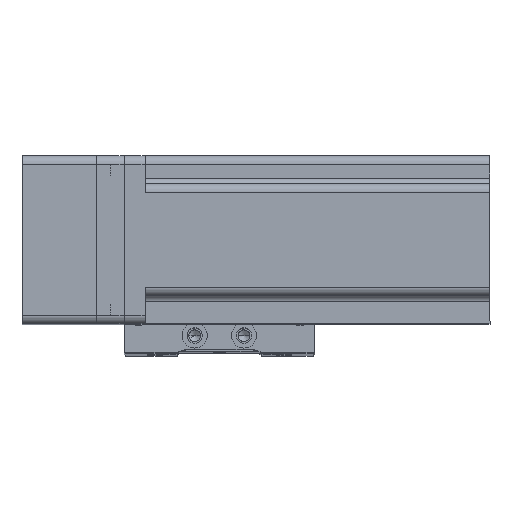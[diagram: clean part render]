
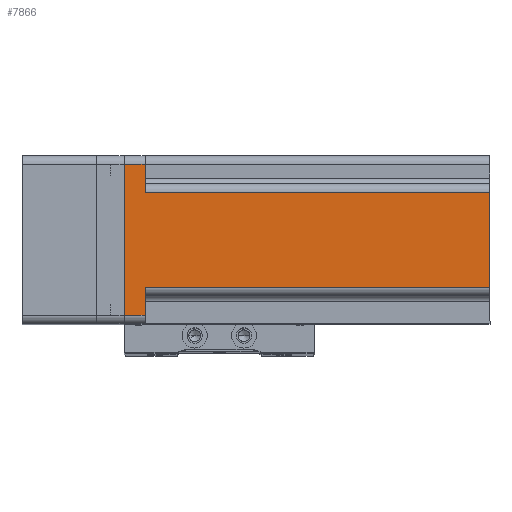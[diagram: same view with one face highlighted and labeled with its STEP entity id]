
A CAD part, top view. The second image highlights one B-rep face of the part: STEP entity #7866.
In plain terms, the highlighted planar face has unit normal (0, 0, 1) as drawn and (0, 1, 0) by its records, which use the part's own axes.
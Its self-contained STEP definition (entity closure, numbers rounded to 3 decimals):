
#216 = VECTOR ( 'NONE', #43646, 1000. ) ;
#3363 = EDGE_LOOP ( 'NONE', ( #10112, #43690, #41309, #33197, #5117, #15691, #41133, #37430 ) ) ;
#4179 = EDGE_CURVE ( 'NONE', #12822, #38806, #40154, .T. ) ;
#5117 = ORIENTED_EDGE ( 'NONE', *, *, #21757, .F. ) ;
#7206 = EDGE_CURVE ( 'NONE', #43794, #40112, #16280, .T. ) ;
#7227 = VERTEX_POINT ( 'NONE', #16454 ) ;
#7866 = ADVANCED_FACE ( 'NONE', ( #32138 ), #19672, .F. ) ;
#7918 = AXIS2_PLACEMENT_3D ( 'NONE', #33338, #12984, #36745 ) ;
#7974 = CARTESIAN_POINT ( 'NONE',  ( 20., 30., 7.5 ) ) ;
#8265 = CARTESIAN_POINT ( 'NONE',  ( -27., 30., 0. ) ) ;
#9008 = EDGE_CURVE ( 'NONE', #20788, #12822, #11090, .T. ) ;
#10112 = ORIENTED_EDGE ( 'NONE', *, *, #28943, .T. ) ;
#10919 = CARTESIAN_POINT ( 'NONE',  ( 17., 30., 7.5 ) ) ;
#11090 = LINE ( 'NONE', #21944, #28108 ) ;
#11184 = CARTESIAN_POINT ( 'NONE',  ( 27., 30., 0. ) ) ;
#12114 = EDGE_CURVE ( 'NONE', #43794, #25513, #34223, .T. ) ;
#12822 = VERTEX_POINT ( 'NONE', #8265 ) ;
#12909 = CARTESIAN_POINT ( 'NONE',  ( -17., 30., 130.7 ) ) ;
#12984 = DIRECTION ( 'NONE',  ( 0., -1., 0. ) ) ;
#13384 = VECTOR ( 'NONE', #38646, 1000. ) ;
#13715 = DIRECTION ( 'NONE',  ( 0., 0., 1. ) ) ;
#14037 = VECTOR ( 'NONE', #13715, 1000. ) ;
#15691 = ORIENTED_EDGE ( 'NONE', *, *, #26858, .T. ) ;
#16280 = LINE ( 'NONE', #43400, #33291 ) ;
#16454 = CARTESIAN_POINT ( 'NONE',  ( -17., 30., 7.5 ) ) ;
#18123 = LINE ( 'NONE', #40214, #216 ) ;
#19542 = LINE ( 'NONE', #7974, #28582 ) ;
#19672 = PLANE ( 'NONE',  #7918 ) ;
#20788 = VERTEX_POINT ( 'NONE', #11184 ) ;
#20941 = CARTESIAN_POINT ( 'NONE',  ( 30., 30., 130.7 ) ) ;
#21757 = EDGE_CURVE ( 'NONE', #22154, #40112, #19542, .T. ) ;
#21944 = CARTESIAN_POINT ( 'NONE',  ( 30., 30., 0. ) ) ;
#22154 = VERTEX_POINT ( 'NONE', #41354 ) ;
#25291 = VECTOR ( 'NONE', #34579, 1000. ) ;
#25513 = VERTEX_POINT ( 'NONE', #12909 ) ;
#26486 = DIRECTION ( 'NONE',  ( 0., 0., -1. ) ) ;
#26858 = EDGE_CURVE ( 'NONE', #22154, #20788, #43109, .T. ) ;
#28108 = VECTOR ( 'NONE', #38992, 1000. ) ;
#28582 = VECTOR ( 'NONE', #35094, 1000. ) ;
#28943 = EDGE_CURVE ( 'NONE', #38806, #7227, #18123, .T. ) ;
#32138 = FACE_OUTER_BOUND ( 'NONE', #3363, .T. ) ;
#33197 = ORIENTED_EDGE ( 'NONE', *, *, #7206, .T. ) ;
#33291 = VECTOR ( 'NONE', #26486, 1000. ) ;
#33338 = CARTESIAN_POINT ( 'NONE',  ( 30., 30., 130.7 ) ) ;
#33964 = CARTESIAN_POINT ( 'NONE',  ( 27., 30., 130.7 ) ) ;
#33999 = VECTOR ( 'NONE', #37382, 1000. ) ;
#34223 = LINE ( 'NONE', #20941, #25291 ) ;
#34342 = CARTESIAN_POINT ( 'NONE',  ( -27., 30., 7.5 ) ) ;
#34579 = DIRECTION ( 'NONE',  ( -1., 0., 0. ) ) ;
#35094 = DIRECTION ( 'NONE',  ( -1., 0., 0. ) ) ;
#35212 = CARTESIAN_POINT ( 'NONE',  ( -17., 30., 130.7 ) ) ;
#35255 = CARTESIAN_POINT ( 'NONE',  ( 17., 30., 130.7 ) ) ;
#36745 = DIRECTION ( 'NONE',  ( 1., 0., 0. ) ) ;
#37382 = DIRECTION ( 'NONE',  ( 0., 0., -1. ) ) ;
#37430 = ORIENTED_EDGE ( 'NONE', *, *, #4179, .T. ) ;
#38646 = DIRECTION ( 'NONE',  ( 0., 0., 1. ) ) ;
#38806 = VERTEX_POINT ( 'NONE', #34342 ) ;
#38983 = EDGE_CURVE ( 'NONE', #7227, #25513, #41644, .T. ) ;
#38992 = DIRECTION ( 'NONE',  ( -1., 0., 0. ) ) ;
#40112 = VERTEX_POINT ( 'NONE', #10919 ) ;
#40154 = LINE ( 'NONE', #40984, #14037 ) ;
#40214 = CARTESIAN_POINT ( 'NONE',  ( -20., 30., 7.5 ) ) ;
#40984 = CARTESIAN_POINT ( 'NONE',  ( -27., 30., 130.7 ) ) ;
#41133 = ORIENTED_EDGE ( 'NONE', *, *, #9008, .T. ) ;
#41309 = ORIENTED_EDGE ( 'NONE', *, *, #12114, .F. ) ;
#41354 = CARTESIAN_POINT ( 'NONE',  ( 27., 30., 7.5 ) ) ;
#41644 = LINE ( 'NONE', #35212, #13384 ) ;
#43109 = LINE ( 'NONE', #33964, #33999 ) ;
#43400 = CARTESIAN_POINT ( 'NONE',  ( 17., 30., 130.7 ) ) ;
#43646 = DIRECTION ( 'NONE',  ( 1., 0., 0. ) ) ;
#43690 = ORIENTED_EDGE ( 'NONE', *, *, #38983, .T. ) ;
#43794 = VERTEX_POINT ( 'NONE', #35255 ) ;
